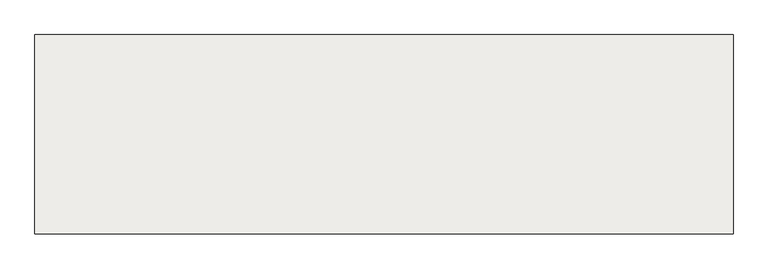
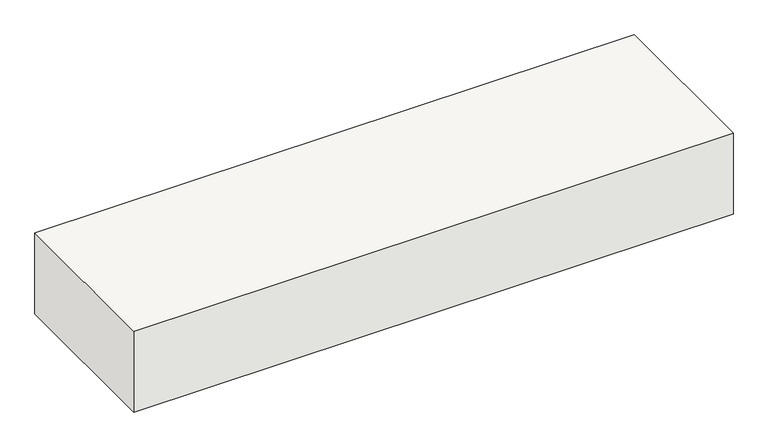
"""IFC4 building model written with IfcOpenShell, lengths in millimetres: slab geometry, Wall Foundation:16_SFO_ihwg beton_C30-35_600x300:317374 : Wall Foundation:16_SFO_ihwg beton_C30-35_600x300:317374."""

from ifc_helpers import new_model, si_unit, frame, origin, place, context, project, spatial, polyline, outline, extrude, source, transform, mapped, element, save


def slab_c038d841(model_context):
    return source(origin(), model_context, "Body", "SweptSolid", [
        extrude(outline(polyline([(31489.8687149, -9548.9380074), (29389.8687149, -9548.9380074), (29389.8687149, -8948.9380074), (31489.8687149, -8948.9380074), (31489.8687149, -9548.9380074)])), frame((0.0, 0.0, -300.0), z_axis=(0.0, 0.0, 1.0), x_axis=(1.0, 0.0, 0.0)), (0.0, 0.0, 1.0), 300.0),
    ])


if __name__ == "__main__":
    model = new_model("IFC4")
    model_context = context("Model", 3, world=origin())
    ifc_project = project(units=[si_unit("LENGTHUNIT", "METRE", prefix="MILLI")], contexts=[model_context])
    site = spatial("IfcSite", under=ifc_project)
    building = spatial("IfcBuilding", under=site)
    placement = place(None, origin())
    slab_shape = slab_c038d841(model_context)
    element("IfcSlab", 1, ObjectType="Wall Foundation:16_SFO_ihwg beton_C30-35_600x300:317374 : Wall Foundation:16_SFO_ihwg beton_C30-35_600x300:317374", at=placement, inside=building, context=model_context, shape_type="MappedRepresentation", body=[
        mapped(slab_shape, transform((0.0, 0.0, 0.0), x_axis=(1.0, 0.0, 0.0), y_axis=(0.0, 1.0, 0.0), z_axis=(0.0, 0.0, 1.0))),
    ])
    save(model, "model.ifc")
